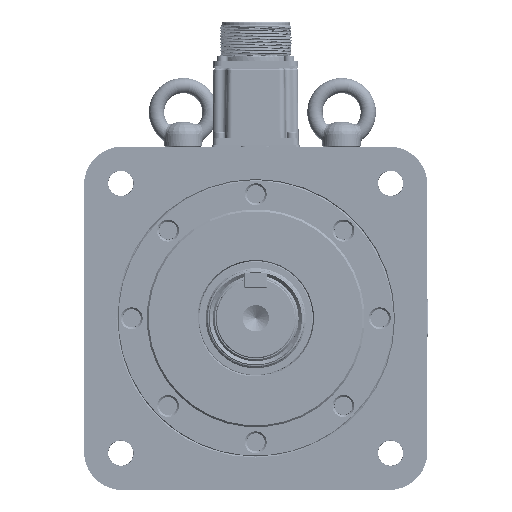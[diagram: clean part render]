
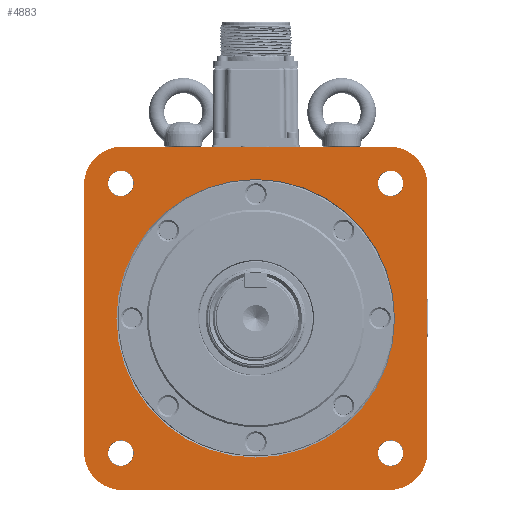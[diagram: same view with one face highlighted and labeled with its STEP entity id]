
A CAD part, front view. The second image highlights one B-rep face of the part: STEP entity #4883.
In plain terms, the highlighted planar face has unit normal (0, -1, 0).
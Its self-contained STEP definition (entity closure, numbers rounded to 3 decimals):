
#4883 = ADVANCED_FACE( '', ( #10717, #10718, #10719, #10720, #10721, #10722 ), #10723, .F. );
#10717 = FACE_BOUND( '', #24327, .T. );
#10718 = FACE_BOUND( '', #24328, .T. );
#10719 = FACE_BOUND( '', #24329, .T. );
#10720 = FACE_BOUND( '', #24330, .T. );
#10721 = FACE_BOUND( '', #24331, .T. );
#10722 = FACE_OUTER_BOUND( '', #24332, .T. );
#10723 = PLANE( '', #24333 );
#24327 = EDGE_LOOP( '', ( #47511 ) );
#24328 = EDGE_LOOP( '', ( #47512 ) );
#24329 = EDGE_LOOP( '', ( #47513 ) );
#24330 = EDGE_LOOP( '', ( #47514 ) );
#24331 = EDGE_LOOP( '', ( #47515 ) );
#24332 = EDGE_LOOP( '', ( #47516, #47517, #47518, #47519, #47520, #47521, #47522, #47523 ) );
#24333 = AXIS2_PLACEMENT_3D( '', #47524, #47525, #47526 );
#47511 = ORIENTED_EDGE( '', *, *, #64248, .T. );
#47512 = ORIENTED_EDGE( '', *, *, #64249, .F. );
#47513 = ORIENTED_EDGE( '', *, *, #64250, .F. );
#47514 = ORIENTED_EDGE( '', *, *, #64111, .F. );
#47515 = ORIENTED_EDGE( '', *, *, #63197, .F. );
#47516 = ORIENTED_EDGE( '', *, *, #63209, .T. );
#47517 = ORIENTED_EDGE( '', *, *, #64251, .T. );
#47518 = ORIENTED_EDGE( '', *, *, #64252, .T. );
#47519 = ORIENTED_EDGE( '', *, *, #64253, .T. );
#47520 = ORIENTED_EDGE( '', *, *, #64254, .T. );
#47521 = ORIENTED_EDGE( '', *, *, #64255, .T. );
#47522 = ORIENTED_EDGE( '', *, *, #64256, .T. );
#47523 = ORIENTED_EDGE( '', *, *, #64257, .T. );
#47524 = CARTESIAN_POINT( '', ( 0., 1.3, 72.5 ) );
#47525 = DIRECTION( '', ( 0., 1., 0. ) );
#47526 = DIRECTION( '', ( 0., 0., 1. ) );
#63197 = EDGE_CURVE( '', #72693, #72693, #72694, .F. );
#63209 = EDGE_CURVE( '', #72715, #72713, #72716, .T. );
#64111 = EDGE_CURVE( '', #74139, #74139, #74140, .F. );
#64248 = EDGE_CURVE( '', #74356, #74356, #74357, .T. );
#64249 = EDGE_CURVE( '', #74358, #74358, #74359, .F. );
#64250 = EDGE_CURVE( '', #74360, #74360, #74361, .F. );
#64251 = EDGE_CURVE( '', #72713, #74362, #74363, .F. );
#64252 = EDGE_CURVE( '', #74362, #74364, #74365, .T. );
#64253 = EDGE_CURVE( '', #74364, #74366, #74367, .F. );
#64254 = EDGE_CURVE( '', #74366, #74368, #74369, .T. );
#64255 = EDGE_CURVE( '', #74368, #74370, #74371, .F. );
#64256 = EDGE_CURVE( '', #74370, #74372, #74373, .T. );
#64257 = EDGE_CURVE( '', #74372, #72715, #74374, .F. );
#72693 = VERTEX_POINT( '', #90885 );
#72694 = CIRCLE( '', #90886, 6.745 );
#72713 = VERTEX_POINT( '', #90934 );
#72715 = VERTEX_POINT( '', #90937 );
#72716 = LINE( '', #90938, #90939 );
#74139 = VERTEX_POINT( '', #93972 );
#74140 = CIRCLE( '', #93973, 6.745 );
#74356 = VERTEX_POINT( '', #94472 );
#74357 = CIRCLE( '', #94473, 73. );
#74358 = VERTEX_POINT( '', #94474 );
#74359 = CIRCLE( '', #94475, 6.745 );
#74360 = VERTEX_POINT( '', #94476 );
#74361 = CIRCLE( '', #94477, 6.745 );
#74362 = VERTEX_POINT( '', #94478 );
#74363 = CIRCLE( '', #94479, 20. );
#74364 = VERTEX_POINT( '', #94480 );
#74365 = LINE( '', #94481, #94482 );
#74366 = VERTEX_POINT( '', #94483 );
#74367 = CIRCLE( '', #94484, 20. );
#74368 = VERTEX_POINT( '', #94485 );
#74369 = LINE( '', #94486, #94487 );
#74370 = VERTEX_POINT( '', #94488 );
#74371 = CIRCLE( '', #94489, 20. );
#74372 = VERTEX_POINT( '', #94490 );
#74373 = LINE( '', #94491, #94492 );
#74374 = CIRCLE( '', #94493, 20. );
#90885 = CARTESIAN_POINT( '', ( -70.711, 1.3, -63.966 ) );
#90886 = AXIS2_PLACEMENT_3D( '', #111623, #111624, #111625 );
#90934 = CARTESIAN_POINT( '', ( -90., 1.3, -70. ) );
#90937 = CARTESIAN_POINT( '', ( -90., 1.3, 70. ) );
#90938 = CARTESIAN_POINT( '', ( -90., 1.3, 90. ) );
#90939 = VECTOR( '', #111635, 1000. );
#93972 = CARTESIAN_POINT( '', ( 70.711, 1.3, -63.966 ) );
#93973 = AXIS2_PLACEMENT_3D( '', #112652, #112653, #112654 );
#94472 = CARTESIAN_POINT( '', ( 0., 1.3, 73. ) );
#94473 = AXIS2_PLACEMENT_3D( '', #112801, #112802, #112803 );
#94474 = CARTESIAN_POINT( '', ( -70.711, 1.3, 77.455 ) );
#94475 = AXIS2_PLACEMENT_3D( '', #112804, #112805, #112806 );
#94476 = CARTESIAN_POINT( '', ( 70.711, 1.3, 77.455 ) );
#94477 = AXIS2_PLACEMENT_3D( '', #112807, #112808, #112809 );
#94478 = CARTESIAN_POINT( '', ( -70., 1.3, -90. ) );
#94479 = AXIS2_PLACEMENT_3D( '', #112810, #112811, #112812 );
#94480 = CARTESIAN_POINT( '', ( 70., 1.3, -90. ) );
#94481 = CARTESIAN_POINT( '', ( -90., 1.3, -90. ) );
#94482 = VECTOR( '', #112813, 1000. );
#94483 = CARTESIAN_POINT( '', ( 90., 1.3, -70. ) );
#94484 = AXIS2_PLACEMENT_3D( '', #112814, #112815, #112816 );
#94485 = CARTESIAN_POINT( '', ( 90., 1.3, 70. ) );
#94486 = CARTESIAN_POINT( '', ( 90., 1.3, -90. ) );
#94487 = VECTOR( '', #112817, 1000. );
#94488 = CARTESIAN_POINT( '', ( 70., 1.3, 90. ) );
#94489 = AXIS2_PLACEMENT_3D( '', #112818, #112819, #112820 );
#94490 = CARTESIAN_POINT( '', ( -70., 1.3, 90. ) );
#94491 = CARTESIAN_POINT( '', ( 90., 1.3, 90. ) );
#94492 = VECTOR( '', #112821, 1000. );
#94493 = AXIS2_PLACEMENT_3D( '', #112822, #112823, #112824 );
#111623 = CARTESIAN_POINT( '', ( -70.711, 1.3, -70.711 ) );
#111624 = DIRECTION( '', ( 0., 1., 0. ) );
#111625 = DIRECTION( '', ( 0., 0., 1. ) );
#111635 = DIRECTION( '', ( 0., 0., -1. ) );
#112652 = CARTESIAN_POINT( '', ( 70.711, 1.3, -70.711 ) );
#112653 = DIRECTION( '', ( 0., 1., 0. ) );
#112654 = DIRECTION( '', ( 0., 0., 1. ) );
#112801 = CARTESIAN_POINT( '', ( 0., 1.3, 0. ) );
#112802 = DIRECTION( '', ( 0., 1., 0. ) );
#112803 = DIRECTION( '', ( 0., 0., 1. ) );
#112804 = CARTESIAN_POINT( '', ( -70.711, 1.3, 70.711 ) );
#112805 = DIRECTION( '', ( 0., 1., 0. ) );
#112806 = DIRECTION( '', ( 0., 0., 1. ) );
#112807 = CARTESIAN_POINT( '', ( 70.711, 1.3, 70.711 ) );
#112808 = DIRECTION( '', ( 0., 1., 0. ) );
#112809 = DIRECTION( '', ( 0., 0., 1. ) );
#112810 = CARTESIAN_POINT( '', ( -70., 1.3, -70. ) );
#112811 = DIRECTION( '', ( 0., 1., 0. ) );
#112812 = DIRECTION( '', ( 0., 0., 1. ) );
#112813 = DIRECTION( '', ( 1., 0., 0. ) );
#112814 = CARTESIAN_POINT( '', ( 70., 1.3, -70. ) );
#112815 = DIRECTION( '', ( 0., 1., 0. ) );
#112816 = DIRECTION( '', ( 0., 0., 1. ) );
#112817 = DIRECTION( '', ( 0., 0., 1. ) );
#112818 = CARTESIAN_POINT( '', ( 70., 1.3, 70. ) );
#112819 = DIRECTION( '', ( 0., 1., 0. ) );
#112820 = DIRECTION( '', ( 0., 0., 1. ) );
#112821 = DIRECTION( '', ( -1., 0., 0. ) );
#112822 = CARTESIAN_POINT( '', ( -70., 1.3, 70. ) );
#112823 = DIRECTION( '', ( 0., 1., 0. ) );
#112824 = DIRECTION( '', ( 0., 0., 1. ) );
